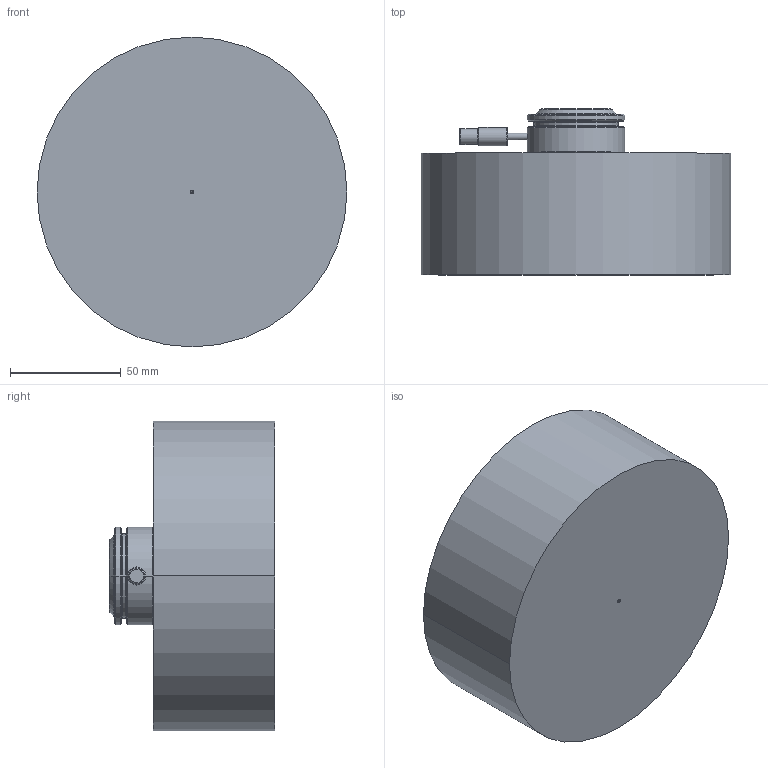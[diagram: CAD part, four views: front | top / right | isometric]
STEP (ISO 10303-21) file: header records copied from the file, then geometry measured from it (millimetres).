
FILE_DESCRIPTION((''),'2;1');
FILE_NAME('M44G103.stp','2020-02-25T14:57:28',(''),(''),'AutoCAD STEP 2000i','AutoCAD 2000i',', , ');
FILE_SCHEMA(('CONFIG_CONTROL_DESIGN'));
Length unit declared in the file: millimetre
Products named in the file (3): M44G103; NOZZLE M101G44; MOLD BODY M 101 G 44
Assembly tree (2 placements, depth 2):
  M44G103
    NOZZLE M101G44
    MOLD BODY M 101 G 44
Bounding box: 140 x 75 x 140 mm (x, y, z)
Volume: 870966.1 mm3; surface area: 70891.9 mm2
Topology: 2 solids, 2 shells, 117 faces, 273 edges, 172 vertices
Faces by surface type: cone 38, cylinder 36, plane 17, bspline 16, torus 10
Entity records: 4108 total; most frequent: CARTESIAN_POINT 1219, DIRECTION 665, ORIENTED_EDGE 538, AXIS2_PLACEMENT_3D 295, EDGE_CURVE 269, CIRCLE 191, VERTEX_POINT 172, EDGE_LOOP 133
